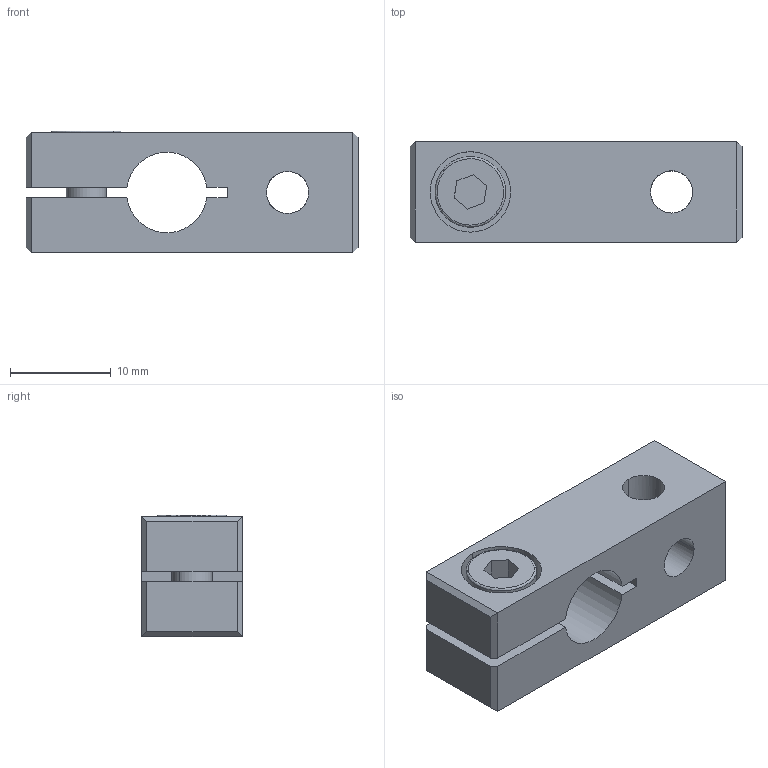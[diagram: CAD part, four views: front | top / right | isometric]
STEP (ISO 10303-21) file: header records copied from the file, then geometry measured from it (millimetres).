
FILE_DESCRIPTION (( 'STEP AP214' ), '1' );
FILE_NAME ('SMBG1-8M5.STEP', '2019-11-06T07:23:48', ( '微软用户' ), ( '微软中国' ), 'SwSTEP 2.0', 'SolidWorks 2016', '' );
FILE_SCHEMA (( 'AUTOMOTIVE_DESIGN' ));
Length unit declared in the file: millimetre
Products named in the file (1): SMBG1-8M5
Bounding box: 33 x 10 x 12.1 mm (x, y, z)
Volume: 3025.5 mm3; surface area: 2675.6 mm2
Topology: 3 solids, 3 shells, 253 faces, 717 edges, 469 vertices
Faces by surface type: plane 225, cylinder 24, cone 2, bspline 2
Entity records: 11185 total; most frequent: CARTESIAN_POINT 1585, DIRECTION 1436, ORIENTED_EDGE 1434, EDGE_CURVE 717, VECTOR 480, LINE 480, AXIS2_PLACEMENT_3D 478, VERTEX_POINT 469
